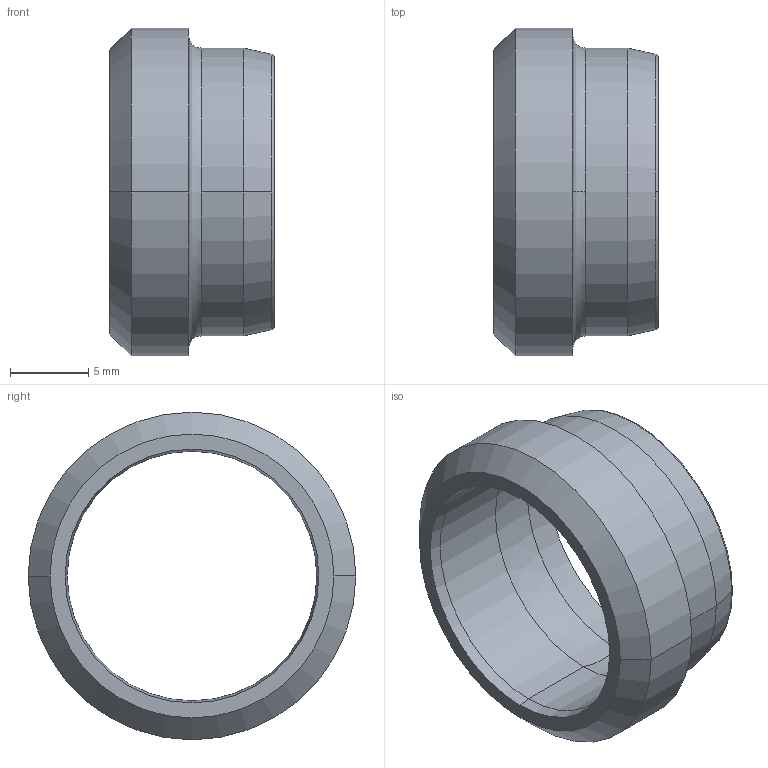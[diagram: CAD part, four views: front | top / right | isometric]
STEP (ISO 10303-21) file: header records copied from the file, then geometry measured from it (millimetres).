
FILE_DESCRIPTION((''),'2;1');
FILE_NAME('100119.stp','2006-03-06T15:06:15',('Dario Falcomer'),('CAST S.p.A.'),'AutoCAD STEP 2000i','AutoCAD 2000i',', , ');
FILE_SCHEMA(('CONFIG_CONTROL_DESIGN'));
Length unit declared in the file: millimetre
Products named in the file (2): 100119.0; 1001ESTERNO#0
Assembly tree (1 placements, depth 2):
  100119.0
    1001ESTERNO#0
Bounding box: 10.57 x 21 x 21 mm (x, y, z)
Volume: 971.2 mm3; surface area: 1389.1 mm2
Topology: 1 solids, 1 shells, 28 faces, 67 edges, 43 vertices
Faces by surface type: bspline 8, cone 8, cylinder 6, plane 4, torus 2
Entity records: 1241 total; most frequent: CARTESIAN_POINT 456, DIRECTION 164, ORIENTED_EDGE 134, AXIS2_PLACEMENT_3D 75, EDGE_CURVE 67, CIRCLE 53, VERTEX_POINT 43, EDGE_LOOP 32
